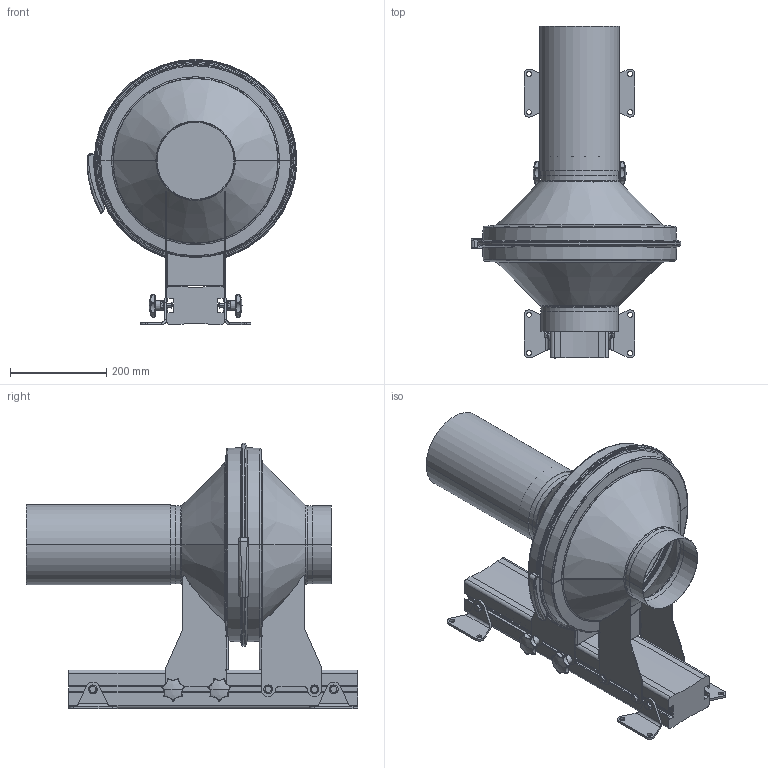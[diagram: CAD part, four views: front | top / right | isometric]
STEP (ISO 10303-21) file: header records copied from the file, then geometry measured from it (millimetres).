
FILE_DESCRIPTION((''),'2;1');
FILE_NAME('CVM','2023-03-20T11:50:27',('Tomas Bellgran'),(''),'CREO PARAMETRIC BY PTC INC, 2018260','CREO PARAMETRIC BY PTC INC, 2018260','');
FILE_SCHEMA(('AUTOMOTIVE_DESIGN { 1 0 10303 214 1 1 1 1 }'));
Length unit declared in the file: millimetre
Products named in the file (10): 112100; 112152; 112153; 112144; 112158; 112159; 100505; 112082; 126056_L; CVM
Assembly tree (23 placements, depth 3):
  CVM
    112100
    112144  x2
      112152
      112153
    112158  x4
    112159
    100505  x8
    112082  x4
    126056_L
Bounding box: 435.88 x 688.56 x 550.5 mm (x, y, z)
Volume: 12576673.6 mm3; surface area: 1742387.9 mm2
Topology: 24 solids, 36 shells, 910 faces, 2196 edges, 1432 vertices
Faces by surface type: cylinder 280, plane 256, cone 126, torus 124, bspline 116, sphere 8
Entity records: 25479 total; most frequent: CARTESIAN_POINT 10017, DIRECTION 1936, ORIENTED_EDGE 1644, PRESENTATION_STYLE_ASSIGNMENT 878, STYLED_ITEM 870, EDGE_CURVE 826, AXIS2_PLACEMENT_3D 744, CURVE_STYLE 656
